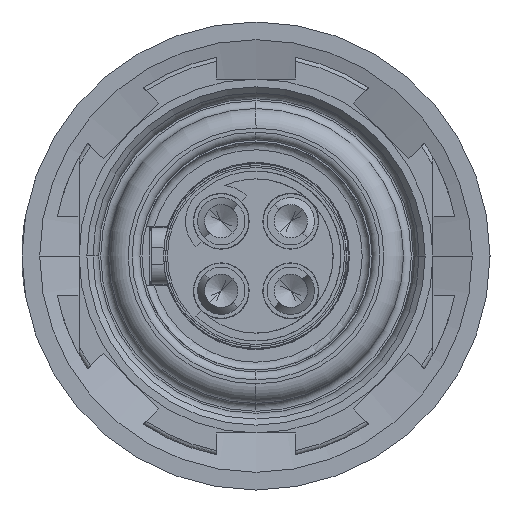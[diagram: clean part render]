
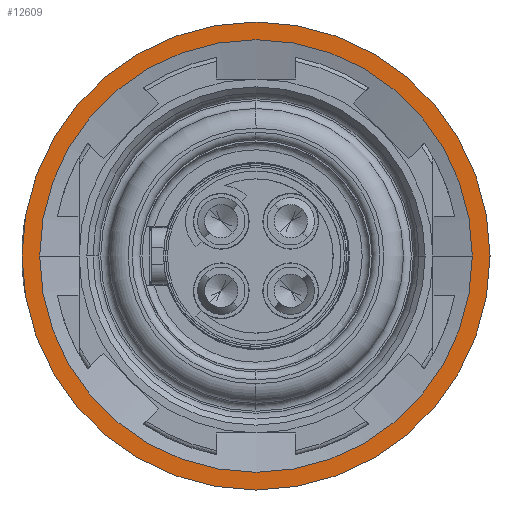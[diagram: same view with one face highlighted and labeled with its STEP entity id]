
A CAD part, left-side view. The second image highlights one B-rep face of the part: STEP entity #12609.
In plain terms, the highlighted planar face has unit normal (-1, 0, 0).
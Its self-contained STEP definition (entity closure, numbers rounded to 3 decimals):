
#1356=CARTESIAN_POINT('',(-5.,0.,0.));
#1357=DIRECTION('',(1.,0.,0.));
#1358=DIRECTION('',(0.,1.,0.));
#1359=AXIS2_PLACEMENT_3D('',#1356,#1357,#1358);
#1361=CARTESIAN_POINT('',(-5.,0.,0.));
#1362=DIRECTION('',(1.,0.,0.));
#1363=DIRECTION('',(0.,-1.,0.));
#1364=AXIS2_PLACEMENT_3D('',#1361,#1362,#1363);
#1366=CARTESIAN_POINT('',(-5.,0.,0.));
#1367=DIRECTION('',(-1.,0.,0.));
#1368=DIRECTION('',(0.,1.,0.));
#1369=AXIS2_PLACEMENT_3D('',#1366,#1367,#1368);
#1371=CARTESIAN_POINT('',(-5.,0.,0.));
#1372=DIRECTION('',(-1.,0.,0.));
#1373=DIRECTION('',(0.,-1.,0.));
#1374=AXIS2_PLACEMENT_3D('',#1371,#1372,#1373);
#9933=CARTESIAN_POINT('',(-5.,-5.5,0.));
#9934=VERTEX_POINT('',#9933);
#9935=CARTESIAN_POINT('',(-5.,5.5,0.));
#9936=VERTEX_POINT('',#9935);
#9939=CARTESIAN_POINT('',(-5.,5.95,0.));
#9940=CARTESIAN_POINT('',(-5.,-5.95,0.));
#9941=VERTEX_POINT('',#9939);
#9942=VERTEX_POINT('',#9940);
#12594=CARTESIAN_POINT('',(-5.,0.,0.));
#12595=DIRECTION('',(-1.,0.,0.));
#12596=DIRECTION('',(0.,-1.,0.));
#12597=AXIS2_PLACEMENT_3D('',#12594,#12595,#12596);
#12598=PLANE('',#12597);
#12600=ORIENTED_EDGE('',*,*,#12599,.T.);
#12602=ORIENTED_EDGE('',*,*,#12601,.T.);
#12603=EDGE_LOOP('',(#12600,#12602));
#12604=FACE_OUTER_BOUND('',#12603,.F.);
#12605=ORIENTED_EDGE('',*,*,#12536,.T.);
#12606=ORIENTED_EDGE('',*,*,#12560,.T.);
#12607=EDGE_LOOP('',(#12605,#12606));
#12608=FACE_BOUND('',#12607,.F.);
#1360=CIRCLE('',#1359,5.95);
#1365=CIRCLE('',#1364,5.95);
#1370=CIRCLE('',#1369,5.5);
#1375=CIRCLE('',#1374,5.5);
#12536=EDGE_CURVE('',#9936,#9934,#1370,.T.);
#12560=EDGE_CURVE('',#9934,#9936,#1375,.T.);
#12599=EDGE_CURVE('',#9941,#9942,#1360,.T.);
#12601=EDGE_CURVE('',#9942,#9941,#1365,.T.);
#12609=ADVANCED_FACE('',(#12604,#12608),#12598,.T.);
